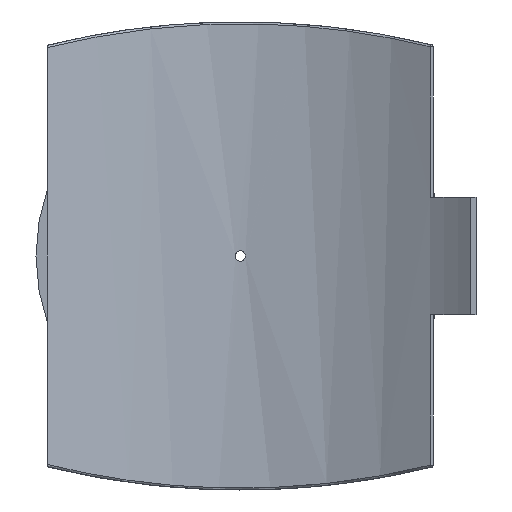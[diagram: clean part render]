
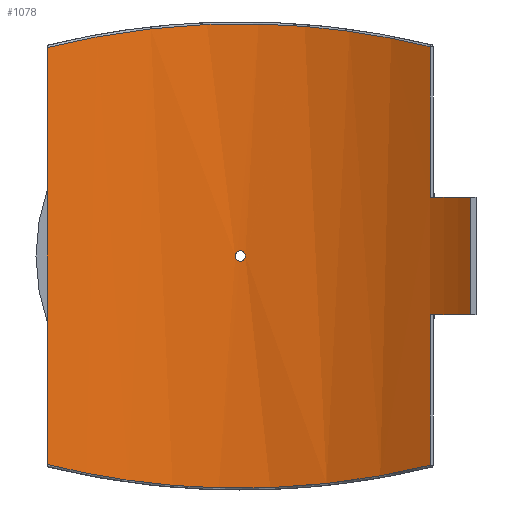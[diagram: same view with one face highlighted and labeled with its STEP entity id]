
A CAD part, front view. The second image highlights one B-rep face of the part: STEP entity #1078.
In plain terms, the highlighted cylindrical face has radius 355 mm (diameter 710 mm), a partial arc.
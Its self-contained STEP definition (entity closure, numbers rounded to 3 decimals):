
#55=FACE_BOUND('',#355,.T.);
#109=B_SPLINE_CURVE_WITH_KNOTS('',3,(#2207,#2208,#2209,#2210,#2211,#2212,
#2213,#2214,#2215,#2216),.UNSPECIFIED.,.F.,.F.,(4,1,1,1,1,1,1,4),(-46.629,
-40.753,-34.877,-29.,-23.124,
-17.248,-11.371,-5.495),.UNSPECIFIED.);
#110=B_SPLINE_CURVE_WITH_KNOTS('',3,(#2225,#2226,#2227,#2228,#2229,#2230,
#2231,#2232,#2233,#2234),.UNSPECIFIED.,.F.,.F.,(4,1,1,1,1,1,1,4),(-43.127,
-37.25,-31.374,-25.498,-19.621,
-13.745,-7.869,-1.992),.UNSPECIFIED.);
#111=B_SPLINE_CURVE_WITH_KNOTS('',3,(#2237,#2238,#2239,#2240,#2241,#2242,
#2243,#2244,#2245,#2246),.UNSPECIFIED.,.F.,.F.,(4,2,2,2,4),(0.,0.196,
0.392,0.588,0.784),.UNSPECIFIED.);
#112=B_SPLINE_CURVE_WITH_KNOTS('',3,(#2247,#2248,#2249,#2250,#2251,#2252,
#2253,#2254,#2255,#2256,#2257,#2258,#2259,#2260,#2261,#2262,#2263,#2264,
#2265,#2266,#2267,#2268,#2269,#2270,#2271,#2272),.UNSPECIFIED.,.F.,.F.,
(4,2,2,2,2,2,2,2,2,2,2,2,4),(0.784,0.979,1.175,
1.371,1.567,1.763,1.959,2.155,
2.351,2.546,2.742,2.938,3.134),
 .UNSPECIFIED.);
#133=LINE('',#1615,#184);
#144=LINE('',#1899,#195);
#151=LINE('',#2221,#202);
#152=LINE('',#2224,#203);
#184=VECTOR('',#1292,10.);
#195=VECTOR('',#1331,10.);
#202=VECTOR('',#1368,10.);
#203=VECTOR('',#1371,10.);
#244=CYLINDRICAL_SURFACE('',#1175,355.);
#288=FACE_OUTER_BOUND('',#354,.T.);
#354=EDGE_LOOP('',(#839,#840,#841,#842,#843,#844,#845,#846));
#355=EDGE_LOOP('',(#847,#848));
#449=CIRCLE('',#1176,355.);
#450=CIRCLE('',#1177,355.);
#510=VERTEX_POINT('',#1606);
#513=VERTEX_POINT('',#1613);
#533=VERTEX_POINT('',#1892);
#536=VERTEX_POINT('',#1897);
#549=VERTEX_POINT('',#2193);
#550=VERTEX_POINT('',#2218);
#551=VERTEX_POINT('',#2220);
#552=VERTEX_POINT('',#2223);
#553=VERTEX_POINT('',#2235);
#554=VERTEX_POINT('',#2236);
#613=EDGE_CURVE('',#513,#510,#133,.T.);
#643=EDGE_CURVE('',#536,#533,#144,.T.);
#666=EDGE_CURVE('',#549,#536,#109,.T.);
#667=EDGE_CURVE('',#550,#513,#449,.T.);
#668=EDGE_CURVE('',#550,#551,#151,.T.);
#669=EDGE_CURVE('',#533,#551,#450,.T.);
#670=EDGE_CURVE('',#552,#549,#152,.T.);
#671=EDGE_CURVE('',#510,#552,#110,.T.);
#672=EDGE_CURVE('',#553,#554,#111,.T.);
#673=EDGE_CURVE('',#554,#553,#112,.T.);
#839=ORIENTED_EDGE('',*,*,#667,.F.);
#840=ORIENTED_EDGE('',*,*,#668,.T.);
#841=ORIENTED_EDGE('',*,*,#669,.F.);
#842=ORIENTED_EDGE('',*,*,#643,.F.);
#843=ORIENTED_EDGE('',*,*,#666,.F.);
#844=ORIENTED_EDGE('',*,*,#670,.F.);
#845=ORIENTED_EDGE('',*,*,#671,.F.);
#846=ORIENTED_EDGE('',*,*,#613,.F.);
#847=ORIENTED_EDGE('',*,*,#672,.T.);
#848=ORIENTED_EDGE('',*,*,#673,.T.);
#1078=ADVANCED_FACE('',(#288,#55),#244,.F.);
#1175=AXIS2_PLACEMENT_3D('',#2217,#1364,#1365);
#1176=AXIS2_PLACEMENT_3D('',#2219,#1366,#1367);
#1177=AXIS2_PLACEMENT_3D('',#2222,#1369,#1370);
#1292=DIRECTION('',(0.,0.,-1.));
#1331=DIRECTION('',(0.,0.,-1.));
#1364=DIRECTION('center_axis',(0.,0.,1.));
#1365=DIRECTION('ref_axis',(-1.,0.,0.));
#1366=DIRECTION('center_axis',(0.,0.,1.));
#1367=DIRECTION('ref_axis',(-0.651,-0.759,0.));
#1368=DIRECTION('',(0.,0.,1.));
#1369=DIRECTION('center_axis',(0.,0.,-1.));
#1370=DIRECTION('ref_axis',(-0.651,-0.759,0.));
#1371=DIRECTION('',(0.,0.,1.));
#1606=CARTESIAN_POINT('',(190.427,299.604,-209.932));
#1613=CARTESIAN_POINT('',(190.427,299.604,-58.75));
#1615=CARTESIAN_POINT('',(190.427,299.604,0.));
#1892=CARTESIAN_POINT('',(190.427,299.604,58.75));
#1897=CARTESIAN_POINT('',(190.427,299.604,209.932));
#1899=CARTESIAN_POINT('',(190.427,299.604,0.));
#2193=CARTESIAN_POINT('',(-193.5,297.629,209.17));
#2207=CARTESIAN_POINT('Ctrl Pts',(-193.5,297.629,209.17));
#2208=CARTESIAN_POINT('Ctrl Pts',(-177.515,308.021,213.167));
#2209=CARTESIAN_POINT('Ctrl Pts',(-143.751,326.302,220.552));
#2210=CARTESIAN_POINT('Ctrl Pts',(-88.875,345.338,228.713));
#2211=CARTESIAN_POINT('Ctrl Pts',(-31.204,355.239,233.105));
#2212=CARTESIAN_POINT('Ctrl Pts',(27.464,355.55,233.245));
#2213=CARTESIAN_POINT('Ctrl Pts',(85.254,346.251,229.113));
#2214=CARTESIAN_POINT('Ctrl Pts',(140.356,327.779,221.172));
#2215=CARTESIAN_POINT('Ctrl Pts',(174.327,309.837,213.89));
#2216=CARTESIAN_POINT('Ctrl Pts',(190.427,299.604,209.932));
#2217=CARTESIAN_POINT('Origin',(0.,0.,0.));
#2218=CARTESIAN_POINT('',(231.017,269.548,-58.75));
#2219=CARTESIAN_POINT('Origin',(0.,0.,
-58.75));
#2220=CARTESIAN_POINT('',(231.017,269.548,58.75));
#2221=CARTESIAN_POINT('',(231.017,269.548,0.));
#2222=CARTESIAN_POINT('Origin',(0.,0.,
58.75));
#2223=CARTESIAN_POINT('',(-193.5,297.629,-209.17));
#2224=CARTESIAN_POINT('',(-193.5,297.629,0.));
#2225=CARTESIAN_POINT('Ctrl Pts',(190.427,299.604,-209.932));
#2226=CARTESIAN_POINT('Ctrl Pts',(174.327,309.837,-213.89));
#2227=CARTESIAN_POINT('Ctrl Pts',(140.355,327.779,-221.171));
#2228=CARTESIAN_POINT('Ctrl Pts',(85.255,346.251,-229.114));
#2229=CARTESIAN_POINT('Ctrl Pts',(27.464,355.549,-233.244));
#2230=CARTESIAN_POINT('Ctrl Pts',(-31.205,355.24,-233.106));
#2231=CARTESIAN_POINT('Ctrl Pts',(-88.875,345.338,-228.712));
#2232=CARTESIAN_POINT('Ctrl Pts',(-143.751,326.302,-220.552));
#2233=CARTESIAN_POINT('Ctrl Pts',(-177.515,308.021,-213.167));
#2234=CARTESIAN_POINT('Ctrl Pts',(-193.5,297.629,-209.17));
#2235=CARTESIAN_POINT('',(5.2,354.962,0.));
#2236=CARTESIAN_POINT('',(0.,355.,-5.2));
#2237=CARTESIAN_POINT('Ctrl Pts',(5.2,354.962,0.));
#2238=CARTESIAN_POINT('Ctrl Pts',(5.2,354.962,-0.653));
#2239=CARTESIAN_POINT('Ctrl Pts',(5.07,354.964,-1.349));
#2240=CARTESIAN_POINT('Ctrl Pts',(4.539,354.971,-2.631));
#2241=CARTESIAN_POINT('Ctrl Pts',(4.139,354.976,-3.215));
#2242=CARTESIAN_POINT('Ctrl Pts',(3.215,354.986,-4.139));
#2243=CARTESIAN_POINT('Ctrl Pts',(2.631,354.991,-4.539));
#2244=CARTESIAN_POINT('Ctrl Pts',(1.349,354.998,-5.07));
#2245=CARTESIAN_POINT('Ctrl Pts',(0.653,355.,-5.2));
#2246=CARTESIAN_POINT('Ctrl Pts',(0.,355.,-5.2));
#2247=CARTESIAN_POINT('Ctrl Pts',(0.,355.,-5.2));
#2248=CARTESIAN_POINT('Ctrl Pts',(-0.653,355.,-5.2));
#2249=CARTESIAN_POINT('Ctrl Pts',(-1.349,354.998,-5.07));
#2250=CARTESIAN_POINT('Ctrl Pts',(-2.631,354.991,-4.539));
#2251=CARTESIAN_POINT('Ctrl Pts',(-3.215,354.986,-4.139));
#2252=CARTESIAN_POINT('Ctrl Pts',(-4.139,354.976,-3.215));
#2253=CARTESIAN_POINT('Ctrl Pts',(-4.539,354.971,-2.631));
#2254=CARTESIAN_POINT('Ctrl Pts',(-5.07,354.964,-1.349));
#2255=CARTESIAN_POINT('Ctrl Pts',(-5.2,354.962,-0.653));
#2256=CARTESIAN_POINT('Ctrl Pts',(-5.2,354.962,0.653));
#2257=CARTESIAN_POINT('Ctrl Pts',(-5.07,354.964,1.349));
#2258=CARTESIAN_POINT('Ctrl Pts',(-4.539,354.971,2.631));
#2259=CARTESIAN_POINT('Ctrl Pts',(-4.139,354.976,3.215));
#2260=CARTESIAN_POINT('Ctrl Pts',(-3.215,354.986,4.139));
#2261=CARTESIAN_POINT('Ctrl Pts',(-2.631,354.991,4.539));
#2262=CARTESIAN_POINT('Ctrl Pts',(-1.349,354.998,5.07));
#2263=CARTESIAN_POINT('Ctrl Pts',(-0.653,355.,5.2));
#2264=CARTESIAN_POINT('Ctrl Pts',(0.653,355.,5.2));
#2265=CARTESIAN_POINT('Ctrl Pts',(1.349,354.998,5.07));
#2266=CARTESIAN_POINT('Ctrl Pts',(2.631,354.991,4.539));
#2267=CARTESIAN_POINT('Ctrl Pts',(3.215,354.986,4.139));
#2268=CARTESIAN_POINT('Ctrl Pts',(4.139,354.976,3.215));
#2269=CARTESIAN_POINT('Ctrl Pts',(4.539,354.971,2.631));
#2270=CARTESIAN_POINT('Ctrl Pts',(5.07,354.964,1.349));
#2271=CARTESIAN_POINT('Ctrl Pts',(5.2,354.962,0.653));
#2272=CARTESIAN_POINT('Ctrl Pts',(5.2,354.962,0.));
